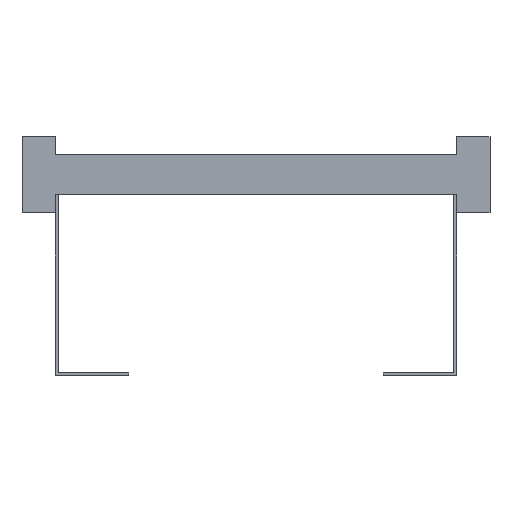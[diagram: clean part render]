
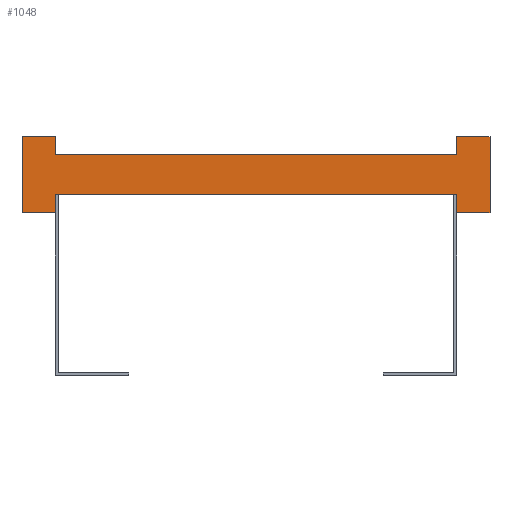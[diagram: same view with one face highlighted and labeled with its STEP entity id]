
A CAD part, front view. The second image highlights one B-rep face of the part: STEP entity #1048.
In plain terms, the highlighted planar face has unit normal (0, -1, 0).
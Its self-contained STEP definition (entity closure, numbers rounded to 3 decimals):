
#1=DIRECTION('',(0.,0.,1.));
#2=VECTOR('',#1,13.5);
#3=CARTESIAN_POINT('',(150.,0.,-28.5));
#4=LINE('',#3,#2);
#5=DIRECTION('',(0.,0.,-1.));
#6=VECTOR('',#5,13.5);
#7=CARTESIAN_POINT('',(-150.,0.,-15.));
#8=LINE('',#7,#6);
#9=DIRECTION('',(-1.,0.,0.));
#10=VECTOR('',#9,25.);
#11=CARTESIAN_POINT('',(-150.,0.,-28.5));
#12=LINE('',#11,#10);
#13=DIRECTION('',(0.,0.,1.));
#14=VECTOR('',#13,57.);
#15=CARTESIAN_POINT('',(-175.,0.,-28.5));
#16=LINE('',#15,#14);
#17=DIRECTION('',(1.,0.,0.));
#18=VECTOR('',#17,25.);
#19=CARTESIAN_POINT('',(-175.,0.,28.5));
#20=LINE('',#19,#18);
#21=DIRECTION('',(0.,0.,-1.));
#22=VECTOR('',#21,13.5);
#23=CARTESIAN_POINT('',(-150.,0.,28.5));
#24=LINE('',#23,#22);
#25=DIRECTION('',(0.,0.,1.));
#26=VECTOR('',#25,13.5);
#27=CARTESIAN_POINT('',(150.,0.,15.));
#28=LINE('',#27,#26);
#29=DIRECTION('',(1.,0.,0.));
#30=VECTOR('',#29,25.);
#31=CARTESIAN_POINT('',(150.,0.,28.5));
#32=LINE('',#31,#30);
#33=DIRECTION('',(0.,0.,-1.));
#34=VECTOR('',#33,57.);
#35=CARTESIAN_POINT('',(175.,0.,28.5));
#36=LINE('',#35,#34);
#37=DIRECTION('',(-1.,0.,0.));
#38=VECTOR('',#37,25.);
#39=CARTESIAN_POINT('',(175.,0.,-28.5));
#40=LINE('',#39,#38);
#753=DIRECTION('',(1.,0.,0.));
#754=VECTOR('',#753,300.);
#755=CARTESIAN_POINT('',(-150.,0.,-15.));
#756=LINE('',#755,#754);
#765=DIRECTION('',(1.,0.,0.));
#766=VECTOR('',#765,300.);
#767=CARTESIAN_POINT('',(-150.,0.,15.));
#768=LINE('',#767,#766);
#769=CARTESIAN_POINT('',(-175.,0.,28.5));
#770=CARTESIAN_POINT('',(-150.,0.,28.5));
#771=VERTEX_POINT('',#769);
#772=VERTEX_POINT('',#770);
#773=CARTESIAN_POINT('',(-150.,0.,-28.5));
#774=CARTESIAN_POINT('',(-175.,0.,-28.5));
#775=VERTEX_POINT('',#773);
#776=VERTEX_POINT('',#774);
#777=CARTESIAN_POINT('',(175.,0.,28.5));
#778=CARTESIAN_POINT('',(175.,0.,-28.5));
#779=VERTEX_POINT('',#777);
#780=VERTEX_POINT('',#778);
#781=CARTESIAN_POINT('',(150.,0.,-28.5));
#782=VERTEX_POINT('',#781);
#783=CARTESIAN_POINT('',(150.,0.,28.5));
#784=VERTEX_POINT('',#783);
#801=CARTESIAN_POINT('',(-150.,0.,-15.));
#803=VERTEX_POINT('',#801);
#805=CARTESIAN_POINT('',(-150.,0.,15.));
#807=VERTEX_POINT('',#805);
#809=CARTESIAN_POINT('',(150.,0.,-15.));
#811=VERTEX_POINT('',#809);
#813=CARTESIAN_POINT('',(150.,0.,15.));
#815=VERTEX_POINT('',#813);
#1017=CARTESIAN_POINT('',(0.,0.,0.));
#1018=DIRECTION('',(0.,1.,0.));
#1019=DIRECTION('',(1.,0.,0.));
#1020=AXIS2_PLACEMENT_3D('',#1017,#1018,#1019);
#1021=PLANE('',#1020);
#1023=ORIENTED_EDGE('',*,*,#1022,.T.);
#1025=ORIENTED_EDGE('',*,*,#1024,.F.);
#1027=ORIENTED_EDGE('',*,*,#1026,.T.);
#1029=ORIENTED_EDGE('',*,*,#1028,.T.);
#1031=ORIENTED_EDGE('',*,*,#1030,.T.);
#1033=ORIENTED_EDGE('',*,*,#1032,.T.);
#1035=ORIENTED_EDGE('',*,*,#1034,.T.);
#1037=ORIENTED_EDGE('',*,*,#1036,.T.);
#1039=ORIENTED_EDGE('',*,*,#1038,.T.);
#1041=ORIENTED_EDGE('',*,*,#1040,.T.);
#1043=ORIENTED_EDGE('',*,*,#1042,.T.);
#1045=ORIENTED_EDGE('',*,*,#1044,.T.);
#1046=EDGE_LOOP('',(#1023,#1025,#1027,#1029,#1031,#1033,#1035,#1037,#1039,#1041,
#1043,#1045));
#1047=FACE_OUTER_BOUND('',#1046,.F.);
#1048=ADVANCED_FACE('',(#1047),#1021,.F.);
#1022=EDGE_CURVE('',#782,#811,#4,.T.);
#1024=EDGE_CURVE('',#803,#811,#756,.T.);
#1026=EDGE_CURVE('',#803,#775,#8,.T.);
#1028=EDGE_CURVE('',#775,#776,#12,.T.);
#1030=EDGE_CURVE('',#776,#771,#16,.T.);
#1032=EDGE_CURVE('',#771,#772,#20,.T.);
#1034=EDGE_CURVE('',#772,#807,#24,.T.);
#1036=EDGE_CURVE('',#807,#815,#768,.T.);
#1038=EDGE_CURVE('',#815,#784,#28,.T.);
#1040=EDGE_CURVE('',#784,#779,#32,.T.);
#1042=EDGE_CURVE('',#779,#780,#36,.T.);
#1044=EDGE_CURVE('',#780,#782,#40,.T.);
